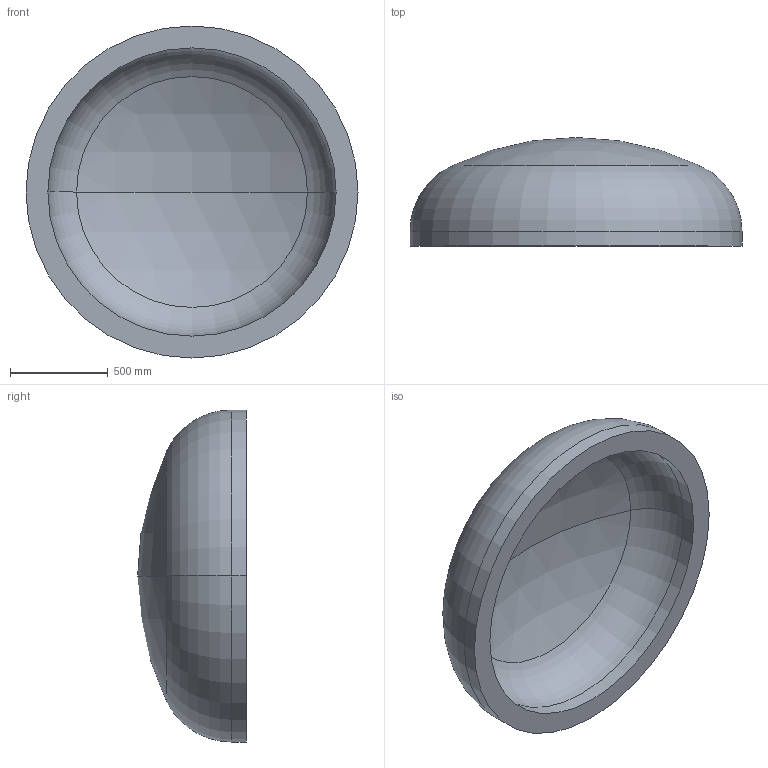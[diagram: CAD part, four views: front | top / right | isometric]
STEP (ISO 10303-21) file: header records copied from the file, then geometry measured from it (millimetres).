
FILE_DESCRIPTION (( 'STEP AP203' ), '1' );
FILE_NAME ('DIN 28013 Korbbogenform_-_Boden DIN 28013 - 1700 x 75 - I - s=112.step', '2016-07-01T12:10:59', ( '' ), ( '' ), 'SwSTEP 2.0', 'SolidWorks 2013', '' );
FILE_SCHEMA (( 'CONFIG_CONTROL_DESIGN' ));
Length unit declared in the file: millimetre
Products named in the file (1): DIN 28013 Korbbogenform_-_Boden DIN 28013 - 1700 x 75 - I - s=112
Bounding box: 1700 x 556.29 x 1700 mm (x, y, z)
Volume: 365297606.9 mm3; surface area: 7108193.2 mm2
Topology: 1 solids, 1 shells, 13 faces, 24 edges, 14 vertices
Faces by surface type: torus 4, cylinder 4, sphere 4, plane 1
Entity records: 407 total; most frequent: DIRECTION 72, CARTESIAN_POINT 52, ORIENTED_EDGE 48, AXIS2_PLACEMENT_3D 34, EDGE_CURVE 24, CIRCLE 20, EDGE_LOOP 14, VERTEX_POINT 14
